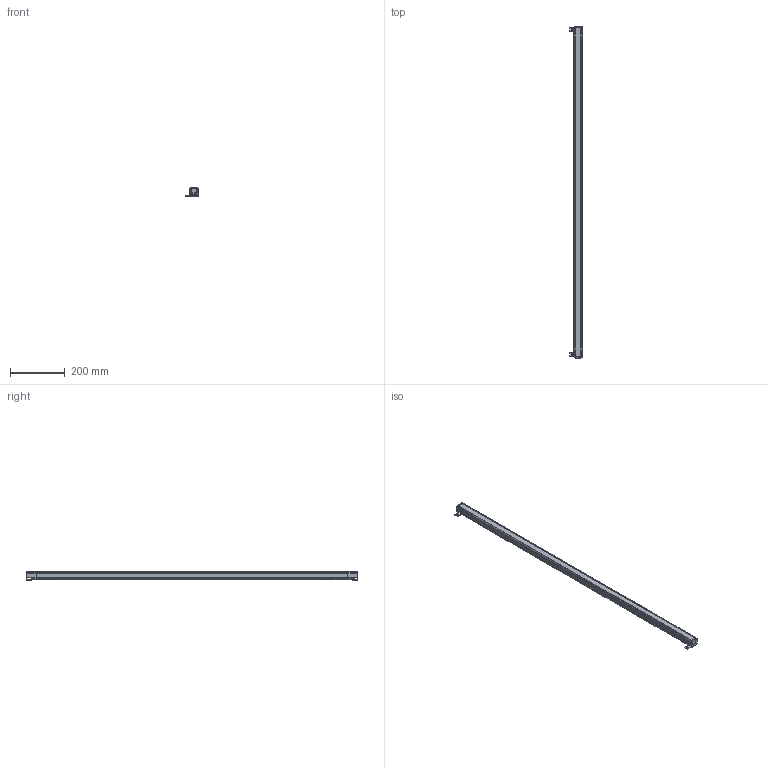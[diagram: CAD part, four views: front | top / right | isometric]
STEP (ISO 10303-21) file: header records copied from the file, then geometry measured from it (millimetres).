
FILE_DESCRIPTION(/* description */ (''),/* implementation_level */ '2;1');
FILE_NAME(/* name */ '3040(30X30).stp',/* time_stamp */ '2020-07-10T20:23:56+08:00',/* author */ (''),/* organization */ (''),/* preprocessor_version */ 'ST-DEVELOPER v16',/* originating_system */ 'SIEMENS PLM Software NX 10.0',/* authorisation */ '');
FILE_SCHEMA (('AP203_CONFIGURATION_CONTROLLED_3D_DESIGN_OF_MECHANICAL_PARTS_AND_ASSEMBLIES_MIM_LF { 1 0 10303 403 2 1 2}'));
Length unit declared in the file: millimetre
Products named in the file (1): Admi58A03253m5py
Bounding box: 44.89 x 1208.4 x 31.39 mm (x, y, z)
Volume: 373953.9 mm3; surface area: 397239.9 mm2
Topology: 6 solids, 6 shells, 441 faces, 1311 edges, 871 vertices
Faces by surface type: plane 256, cylinder 132, cone 32, bspline 14, extrusion 7
Full cylindrical faces by diameter (mm): 1.5 x2, 3.2 x8, 3.5 x8
Entity records: 15674 total; most frequent: CARTESIAN_POINT 3867, ORIENTED_EDGE 2528, DIRECTION 2314, EDGE_CURVE 1264, VECTOR 856, VERTEX_POINT 855, LINE 849, AXIS2_PLACEMENT_3D 729
